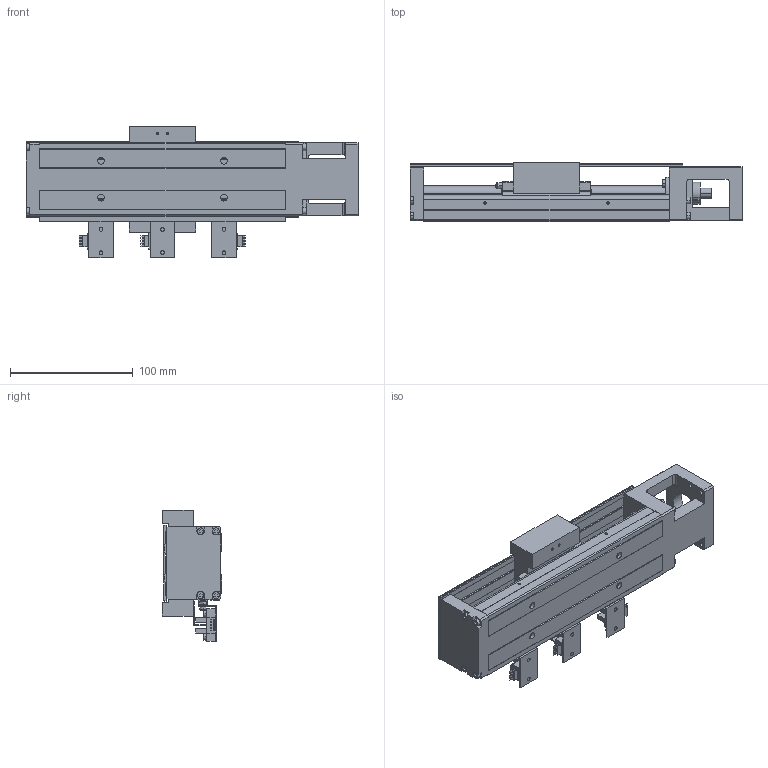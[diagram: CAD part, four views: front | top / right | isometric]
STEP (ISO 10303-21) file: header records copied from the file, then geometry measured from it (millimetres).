
FILE_DESCRIPTION (( 'STEP AP203' ), '1' );
FILE_NAME ('HKK60D5C-200A1-F0CS1.stp', '2021-11-29T03:36:27', ( '' ), ( '' ), 'SwSTEP 2.0', 'SolidWorks 2018', '' );
FILE_SCHEMA (( 'CONFIG_CONTROL_DESIGN' ));
Length unit declared in the file: millimetre
Products named in the file (1): HKK60D5C-200A1-F0CS1
Bounding box: 270 x 48 x 106.85 mm (x, y, z)
Volume: 438596.9 mm3; surface area: 155520.7 mm2
Topology: 6 solids, 20 shells, 1400 faces, 3523 edges, 2239 vertices
Faces by surface type: plane 874, cylinder 382, cone 110, torus 32, bspline 2
Entity records: 41710 total; most frequent: CARTESIAN_POINT 8197, ORIENTED_EDGE 6946, DIRECTION 6843, EDGE_CURVE 3473, VECTOR 2445, LINE 2445, VERTEX_POINT 2239, AXIS2_PLACEMENT_3D 2199
